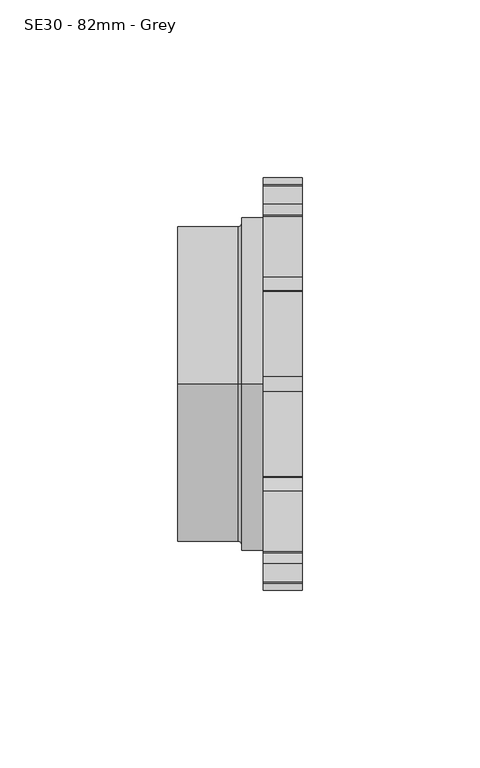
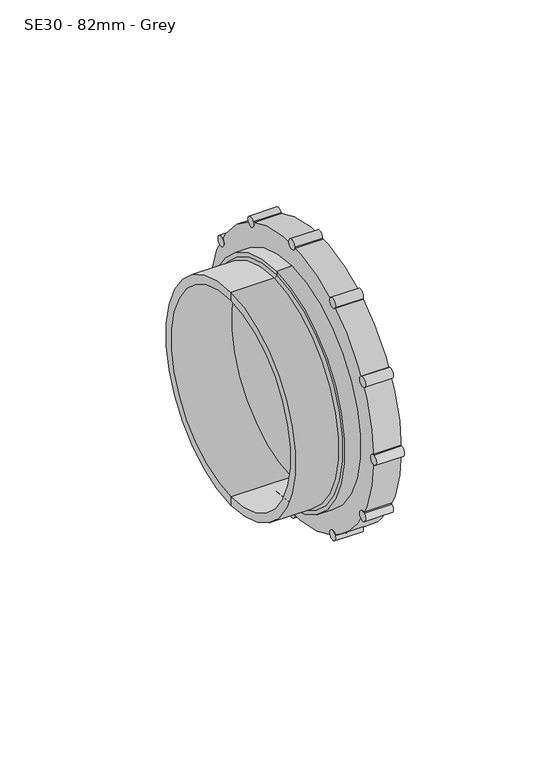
"""IFC4 building model written with IfcOpenShell, lengths in millimetres: pipe fitting geometry, MarleyPlumbingAndDrainage_PipeFitting_AccessCaps : SE30 - 82mm - Grey."""

from ifc_helpers import new_model, si_unit, point, frame, frame_2d, origin, place, context, project, spatial, polyline, circle_curve, ellipse_curve, trimmed, segment, composite_curve, outline, extrude, source, transform, mapped, element, save
from ifc_brep_helpers import plane_surface, cylinder_surface, revolved_surface, advanced_brep


def se30_82mm_grey_369aa931(model_context):
    return source(origin(), model_context, "Body", "SolidModel", [
        extrude(outline(composite_curve([segment(trimmed(circle_curve(frame_2d((48.4974226, 28.0)), 2.0), [point((47.4974226, 29.7320508))], [point((49.4974226, 26.2679492))], False, "CARTESIAN"), True, "CONTINUOUS"), segment(trimmed(circle_curve(frame_2d((48.4974226, 28.0)), 2.0), [point((49.4974226, 26.2679492))], [point((47.4974226, 29.7320508))], False, "CARTESIAN"), True, "CONTINUOUS")], self_intersect=False)), frame((-330.6858175, 0.0, 0.0), z_axis=(1.0, 0.0, 0.0), x_axis=(0.0, 1.0, 0.0)), (0.0, 0.0, 1.0), 11.0),
        extrude(outline(composite_curve([segment(trimmed(circle_curve(frame_2d((56.0, 0.0)), 2.0), [point((56.0, 2.0))], [point((56.0, -2.0))], False, "CARTESIAN"), True, "CONTINUOUS"), segment(trimmed(circle_curve(frame_2d((56.0, 0.0)), 2.0), [point((56.0, -2.0))], [point((56.0, 2.0))], False, "CARTESIAN"), True, "CONTINUOUS")], self_intersect=False)), frame((-330.6858175, 0.0, 0.0), z_axis=(1.0, 0.0, 0.0), x_axis=(0.0, 1.0, 0.0)), (0.0, 0.0, 1.0), 11.0),
        extrude(outline(composite_curve([segment(trimmed(circle_curve(frame_2d((48.4974226, -28.0)), 2.0), [point((49.4974226, -26.2679492))], [point((47.4974226, -29.7320508))], False, "CARTESIAN"), True, "CONTINUOUS"), segment(trimmed(circle_curve(frame_2d((48.4974226, -28.0)), 2.0), [point((47.4974226, -29.7320508))], [point((49.4974226, -26.2679492))], False, "CARTESIAN"), True, "CONTINUOUS")], self_intersect=False)), frame((-330.6858175, 0.0, 0.0), z_axis=(1.0, 0.0, 0.0), x_axis=(0.0, 1.0, 0.0)), (0.0, 0.0, 1.0), 11.0),
        extrude(outline(composite_curve([segment(trimmed(circle_curve(frame_2d((28.0, -48.4974226)), 2.0), [point((29.7320508, -47.4974226))], [point((26.2679492, -49.4974226))], False, "CARTESIAN"), True, "CONTINUOUS"), segment(trimmed(circle_curve(frame_2d((28.0, -48.4974226)), 2.0), [point((26.2679492, -49.4974226))], [point((29.7320508, -47.4974226))], False, "CARTESIAN"), True, "CONTINUOUS")], self_intersect=False)), frame((-330.6858175, 0.0, 0.0), z_axis=(1.0, 0.0, 0.0), x_axis=(0.0, 1.0, 0.0)), (0.0, 0.0, 1.0), 11.0),
        extrude(outline(composite_curve([segment(trimmed(circle_curve(frame_2d((0.0, -56.0)), 2.0), [point((2.0, -56.0))], [point((-2.0, -56.0))], False, "CARTESIAN"), True, "CONTINUOUS"), segment(trimmed(circle_curve(frame_2d((0.0, -56.0)), 2.0), [point((-2.0, -56.0))], [point((2.0, -56.0))], False, "CARTESIAN"), True, "CONTINUOUS")], self_intersect=False)), frame((-330.6858175, 0.0, 0.0), z_axis=(1.0, 0.0, 0.0), x_axis=(0.0, 1.0, 0.0)), (0.0, 0.0, 1.0), 11.0),
        extrude(outline(composite_curve([segment(trimmed(circle_curve(frame_2d((-28.0, -48.4974226)), 2.0), [point((-26.2679492, -49.4974226))], [point((-29.7320508, -47.4974226))], False, "CARTESIAN"), True, "CONTINUOUS"), segment(trimmed(circle_curve(frame_2d((-28.0, -48.4974226)), 2.0), [point((-29.7320508, -47.4974226))], [point((-26.2679492, -49.4974226))], False, "CARTESIAN"), True, "CONTINUOUS")], self_intersect=False)), frame((-330.6858175, 0.0, 0.0), z_axis=(1.0, 0.0, 0.0), x_axis=(0.0, 1.0, 0.0)), (0.0, 0.0, 1.0), 11.0),
        extrude(outline(composite_curve([segment(trimmed(circle_curve(frame_2d((-48.4974226, -28.0)), 2.0), [point((-47.4974226, -29.7320508))], [point((-49.4974226, -26.2679492))], False, "CARTESIAN"), True, "CONTINUOUS"), segment(trimmed(circle_curve(frame_2d((-48.4974226, -28.0)), 2.0), [point((-49.4974226, -26.2679492))], [point((-47.4974226, -29.7320508))], False, "CARTESIAN"), True, "CONTINUOUS")], self_intersect=False)), frame((-330.6858175, 0.0, 0.0), z_axis=(1.0, 0.0, 0.0), x_axis=(0.0, 1.0, 0.0)), (0.0, 0.0, 1.0), 11.0),
        extrude(outline(composite_curve([segment(trimmed(circle_curve(frame_2d((-56.0, 0.0)), 2.0), [point((-56.0, -2.0))], [point((-56.0, 2.0))], False, "CARTESIAN"), True, "CONTINUOUS"), segment(trimmed(circle_curve(frame_2d((-56.0, 0.0)), 2.0), [point((-56.0, 2.0))], [point((-56.0, -2.0))], False, "CARTESIAN"), True, "CONTINUOUS")], self_intersect=False)), frame((-330.6858175, 0.0, 0.0), z_axis=(1.0, 0.0, 0.0), x_axis=(0.0, 1.0, 0.0)), (0.0, 0.0, 1.0), 11.0),
        extrude(outline(composite_curve([segment(trimmed(circle_curve(frame_2d((-48.4974226, 28.0)), 2.0), [point((-49.4974226, 26.2679492))], [point((-47.4974226, 29.7320508))], False, "CARTESIAN"), True, "CONTINUOUS"), segment(trimmed(circle_curve(frame_2d((-48.4974226, 28.0)), 2.0), [point((-47.4974226, 29.7320508))], [point((-49.4974226, 26.2679492))], False, "CARTESIAN"), True, "CONTINUOUS")], self_intersect=False)), frame((-330.6858175, 0.0, 0.0), z_axis=(1.0, 0.0, 0.0), x_axis=(0.0, 1.0, 0.0)), (0.0, 0.0, 1.0), 11.0),
        extrude(outline(composite_curve([segment(trimmed(circle_curve(frame_2d((-28.0, 48.4974226)), 2.0), [point((-29.7320508, 47.4974226))], [point((-26.2679492, 49.4974226))], False, "CARTESIAN"), True, "CONTINUOUS"), segment(trimmed(circle_curve(frame_2d((-28.0, 48.4974226)), 2.0), [point((-26.2679492, 49.4974226))], [point((-29.7320508, 47.4974226))], False, "CARTESIAN"), True, "CONTINUOUS")], self_intersect=False)), frame((-330.6858175, 0.0, 0.0), z_axis=(1.0, 0.0, 0.0), x_axis=(0.0, 1.0, 0.0)), (0.0, 0.0, 1.0), 11.0),
        extrude(outline(composite_curve([segment(trimmed(circle_curve(frame_2d((28.0, 48.4974226)), 2.0), [point((26.2679492, 49.4974226))], [point((29.7320508, 47.4974226))], False, "CARTESIAN"), True, "CONTINUOUS"), segment(trimmed(circle_curve(frame_2d((28.0, 48.4974226)), 2.0), [point((29.7320508, 47.4974226))], [point((26.2679492, 49.4974226))], False, "CARTESIAN"), True, "CONTINUOUS")], self_intersect=False)), frame((-330.6858175, 0.0, 0.0), z_axis=(1.0, 0.0, 0.0), x_axis=(0.0, 1.0, 0.0)), (0.0, 0.0, 1.0), 11.0),
        extrude(outline(composite_curve([segment(trimmed(circle_curve(frame_2d((0.0, 56.0)), 2.0), [point((-2.0, 56.0))], [point((2.0, 56.0))], False, "CARTESIAN"), True, "CONTINUOUS"), segment(trimmed(circle_curve(frame_2d((0.0, 56.0)), 2.0), [point((2.0, 56.0))], [point((-2.0, 56.0))], False, "CARTESIAN"), True, "CONTINUOUS")], self_intersect=False)), frame((-330.6858175, 0.0, 0.0), z_axis=(1.0, 0.0, 0.0), x_axis=(0.0, 1.0, 0.0)), (0.0, 0.0, 1.0), 11.0),
        advanced_brep(
        [(-319.6858175, -56.0, 0.0), (-319.6858175, 56.0, 0.0), (-319.6858175, -20.0908802, -48.5036755), (-319.6858175, -18.7514882, -45.2700971), (-319.6858175, 18.7514882, -45.2700971), (-319.6858175, 20.0908802, -48.5036755), (-319.6858175, 48.5036755, -20.0908802), (-319.6858175, 45.2700971, -18.7514882), (-319.6858175, 45.2700971, 18.7514882), (-319.6858175, 48.5036755, 20.0908802), (-319.6858175, -45.2700971, 18.7514882), (-319.6858175, -45.2700971, -18.7514882), (-319.6858175, -48.5036755, -20.0908802), (-319.6858175, -48.5036755, 20.0908802), (-319.6858175, -18.7514882, 45.2700971), (-319.6858175, -20.0908802, 48.5036755), (-319.6858175, 20.0908802, 48.5036755), (-319.6858175, 18.7514882, 45.2700971), (-330.6858175, -56.0, 0.0), (-330.6858175, 56.0, 0.0), (-330.6858175, 0.0, -47.0), (-330.6858175, 0.0, 47.0), (-330.6858175, 0.0, 41.0), (-330.6858175, 0.0, -41.0), (-326.3925353, -18.7514882, -45.2700971), (-326.3925353, -20.0908802, -48.5036755), (-326.3925353, 20.0908802, -48.5036755), (-326.3925353, 18.7514882, -45.2700971), (-326.3925353, 45.2700971, -18.7514882), (-326.3925353, 48.5036755, -20.0908802), (-326.3925353, 48.5036755, 20.0908802), (-326.3925353, 45.2700971, 18.7514882), (-326.3925353, -45.2700971, -18.7514882), (-326.3925353, -45.2700971, 18.7514882), (-326.3925353, -48.5036755, 20.0908802), (-326.3925353, -48.5036755, -20.0908802), (-326.3925353, -20.0908802, 48.5036755), (-326.3925353, -18.7514882, 45.2700971), (-326.3925353, 18.7514882, 45.2700971), (-326.3925353, 20.0908802, 48.5036755), (-336.6858175, 0.0, -47.0), (-336.6858175, 0.0, 47.0), (-336.6858175, 0.0, -45.5), (-336.6858175, 0.0, 45.5), (-337.6858175, 0.0, -44.5), (-337.6858175, 0.0, 44.5), (-354.6858175, 0.0, -44.5), (-354.6858175, 0.0, 44.5), (-354.6858175, 0.0, -41.0), (-354.6858175, 0.0, 41.0)],
        [
            (0, 1, circle_curve(frame((-319.6858175, 0.0, 0.0), z_axis=(1.0, 0.0, 0.0), x_axis=(0.0, 1.0, 0.0)), 56.0)),
            (1, 0, circle_curve(frame((-319.6858175, 0.0, 0.0), z_axis=(1.0, 0.0, 0.0), x_axis=(0.0, 1.0, 0.0)), 56.0)),
            (2, 3),
            (3, 4, circle_curve(frame((-319.6858175, 0.0, 0.0), z_axis=(1.0, 0.0, 0.0), x_axis=(0.0, 1.0, 0.0)), 49.0)),
            (4, 5),
            (5, 2, circle_curve(frame((-319.6858175, 0.0, 0.0), z_axis=(-1.0, 0.0, 0.0), x_axis=(0.0, 1.0, 0.0)), 52.5)),
            (6, 7),
            (7, 8, circle_curve(frame((-319.6858175, 0.0, 0.0), z_axis=(1.0, 0.0, 0.0), x_axis=(0.0, 1.0, 0.0)), 49.0)),
            (8, 9),
            (9, 6, circle_curve(frame((-319.6858175, 0.0, 0.0), z_axis=(-1.0, 0.0, 0.0), x_axis=(0.0, 1.0, 0.0)), 52.5)),
            (10, 11, circle_curve(frame((-319.6858175, 0.0, 0.0), z_axis=(1.0, 0.0, 0.0), x_axis=(0.0, 1.0, 0.0)), 49.0)),
            (11, 12),
            (12, 13, circle_curve(frame((-319.6858175, 0.0, 0.0), z_axis=(-1.0, 0.0, 0.0), x_axis=(0.0, 1.0, 0.0)), 52.5)),
            (13, 10),
            (14, 15),
            (15, 16, circle_curve(frame((-319.6858175, 0.0, 0.0), z_axis=(-1.0, 0.0, 0.0), x_axis=(0.0, 1.0, 0.0)), 52.5)),
            (16, 17),
            (17, 14, circle_curve(frame((-319.6858175, 0.0, 0.0), z_axis=(1.0, 0.0, 0.0), x_axis=(0.0, 1.0, 0.0)), 49.0)),
            (18, 19, circle_curve(frame((-330.6858175, 0.0, 0.0), z_axis=(-1.0, 0.0, 0.0), x_axis=(0.0, 1.0, 0.0)), 56.0)),
            (19, 18, circle_curve(frame((-330.6858175, 0.0, 0.0), z_axis=(-1.0, 0.0, 0.0), x_axis=(0.0, 1.0, 0.0)), 56.0)),
            (20, 21, circle_curve(frame((-330.6858175, 0.0, 0.0), z_axis=(1.0, 0.0, 0.0), x_axis=(0.0, 0.0, 1.0)), 47.0)),
            (21, 20, circle_curve(frame((-330.6858175, 0.0, 0.0), z_axis=(1.0, 0.0, 0.0), x_axis=(0.0, 0.0, 1.0)), 47.0)),
            (22, 23, circle_curve(frame((-330.6858175, 0.0, 0.0), z_axis=(-1.0, 0.0, 0.0), x_axis=(0.0, 0.0, 1.0)), 41.0)),
            (23, 22, circle_curve(frame((-330.6858175, 0.0, 0.0), z_axis=(-1.0, 0.0, 0.0), x_axis=(0.0, 0.0, 1.0)), 41.0)),
            (0, 18),
            (19, 1),
            (24, 25),
            (25, 26, circle_curve(frame((-326.3925353, 0.0, 0.0), z_axis=(1.0, 0.0, 0.0), x_axis=(0.0, 1.0, 0.0)), 52.5)),
            (26, 27),
            (27, 24, circle_curve(frame((-326.3925353, 0.0, 0.0), z_axis=(-1.0, 0.0, 0.0), x_axis=(0.0, 1.0, 0.0)), 49.0)),
            (28, 29),
            (29, 30, circle_curve(frame((-326.3925353, 0.0, 0.0), z_axis=(1.0, 0.0, 0.0), x_axis=(0.0, 1.0, 0.0)), 52.5)),
            (30, 31),
            (31, 28, circle_curve(frame((-326.3925353, 0.0, 0.0), z_axis=(-1.0, 0.0, 0.0), x_axis=(0.0, 1.0, 0.0)), 49.0)),
            (32, 33, circle_curve(frame((-326.3925353, 0.0, 0.0), z_axis=(-1.0, 0.0, 0.0), x_axis=(0.0, 1.0, 0.0)), 49.0)),
            (33, 34),
            (34, 35, circle_curve(frame((-326.3925353, 0.0, 0.0), z_axis=(1.0, 0.0, 0.0), x_axis=(0.0, 1.0, 0.0)), 52.5)),
            (35, 32),
            (36, 37),
            (37, 38, circle_curve(frame((-326.3925353, 0.0, 0.0), z_axis=(-1.0, 0.0, 0.0), x_axis=(0.0, 1.0, 0.0)), 49.0)),
            (38, 39),
            (39, 36, circle_curve(frame((-326.3925353, 0.0, 0.0), z_axis=(1.0, 0.0, 0.0), x_axis=(0.0, 1.0, 0.0)), 52.5)),
            (24, 3),
            (2, 25),
            (5, 26),
            (4, 27),
            (28, 7),
            (6, 29),
            (9, 30),
            (8, 31),
            (32, 11),
            (10, 33),
            (13, 34),
            (12, 35),
            (36, 15),
            (14, 37),
            (17, 38),
            (16, 39),
            (40, 41, circle_curve(frame((-336.6858175, 0.0, 0.0), z_axis=(1.0, 0.0, 0.0), x_axis=(0.0, 0.0, 1.0)), 47.0)),
            (41, 21),
            (20, 40),
            (41, 40, circle_curve(frame((-336.6858175, 0.0, 0.0), z_axis=(1.0, 0.0, 0.0), x_axis=(0.0, 0.0, 1.0)), 47.0)),
            (40, 42),
            (42, 43, circle_curve(frame((-336.6858175, 0.0, 0.0), z_axis=(1.0, 0.0, 0.0), x_axis=(0.0, 0.0, 1.0)), 45.5)),
            (43, 41),
            (43, 42, circle_curve(frame((-336.6858175, 0.0, 0.0), z_axis=(1.0, 0.0, 0.0), x_axis=(0.0, 0.0, 1.0)), 45.5)),
            (42, 44, circle_curve(frame((-337.6858175, 0.0, -45.5), z_axis=(0.0, -1.0, 0.0), x_axis=(1.0, 0.0, 0.0)), 1.0)),
            (44, 45, circle_curve(frame((-337.6858175, 0.0, 0.0), z_axis=(1.0, 0.0, 0.0), x_axis=(0.0, 0.0, 1.0)), 44.5)),
            (45, 43, circle_curve(frame((-337.6858175, 0.0, 45.5), z_axis=(0.0, -1.0, 0.0), x_axis=(1.0, 0.0, 0.0)), 1.0)),
            (45, 44, circle_curve(frame((-337.6858175, 0.0, 0.0), z_axis=(1.0, 0.0, 0.0), x_axis=(0.0, 0.0, 1.0)), 44.5)),
            (44, 46),
            (46, 47, circle_curve(frame((-354.6858175, 0.0, 0.0), z_axis=(1.0, 0.0, 0.0), x_axis=(0.0, 0.0, 1.0)), 44.5)),
            (47, 45),
            (47, 46, circle_curve(frame((-354.6858175, 0.0, 0.0), z_axis=(1.0, 0.0, 0.0), x_axis=(0.0, 0.0, 1.0)), 44.5)),
            (46, 48),
            (48, 49, circle_curve(frame((-354.6858175, 0.0, 0.0), z_axis=(1.0, 0.0, 0.0), x_axis=(0.0, 0.0, 1.0)), 41.0)),
            (49, 47),
            (49, 48, circle_curve(frame((-354.6858175, 0.0, 0.0), z_axis=(1.0, 0.0, 0.0), x_axis=(0.0, 0.0, 1.0)), 41.0)),
            (48, 23),
            (22, 49),
        ],
        [
            plane_surface(frame((-319.6858175, 56.0, 0.0), z_axis=(1.0, 0.0, 0.0), x_axis=(0.0, 0.0, 1.0))),
            plane_surface(frame((-330.6858175, 56.0, 0.0), z_axis=(-1.0, 0.0, 0.0), x_axis=(0.0, 0.0, -1.0))),
            cylinder_surface(frame((-330.6858175, 0.0, 0.0), z_axis=(1.0, 0.0, 0.0), x_axis=(0.0, 1.0, 0.0)), 56.0),
            plane_surface(frame((-326.3925353, -20.0908802, -48.5036755), z_axis=(1.0, 0.0, 0.0), x_axis=(0.0, 0.3826834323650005, 0.9238795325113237))),
            plane_surface(frame((-319.6858175, -18.7514882, -45.2700971), z_axis=(0.0, 0.9238795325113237, -0.3826834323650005), x_axis=(-1.0, 0.0, 0.0))),
            revolved_surface(polyline([(-319.6858175, 52.5, 0.0), (-326.3925353, 52.5, 0.0)]), (-326.3925353, 0.0, 0.0), (1.0, 0.0, 0.0)),
            plane_surface(frame((-319.6858175, 20.0908802, -48.5036755), z_axis=(0.0, -0.9238795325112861, -0.3826834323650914), x_axis=(-1.0, 0.0, 0.0))),
            cylinder_surface(frame((-326.3925353, 0.0, 0.0), z_axis=(-1.0, 0.0, 0.0), x_axis=(0.0, 1.0, 0.0)), 49.0),
            plane_surface(frame((-319.6858175, 45.2700971, -18.7514882), z_axis=(0.0, 0.3826834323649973, 0.9238795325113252), x_axis=(-1.0, 0.0, 0.0))),
            revolved_surface(polyline([(-319.6858175, 52.5, 0.0), (-326.3925353, 52.5, 0.0)]), (-330.6858175, 0.0, 0.0), (1.0, 0.0, 0.0)),
            plane_surface(frame((-319.6858175, 48.5036755, 20.0908802), z_axis=(0.0, 0.3826834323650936, -0.9238795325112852), x_axis=(-1.0, 0.0, 0.0))),
            cylinder_surface(frame((-330.6858175, 0.0, 0.0), z_axis=(-1.0, 0.0, 0.0), x_axis=(0.0, 1.0, 0.0)), 49.0),
            plane_surface(frame((-319.6858175, -45.2700971, 18.7514882), z_axis=(0.0, -0.38268343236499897, -0.9238795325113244), x_axis=(-1.0, 0.0, 0.0))),
            plane_surface(frame((-319.6858175, -48.5036755, -20.0908802), z_axis=(0.0, -0.3826834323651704, 0.9238795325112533), x_axis=(-1.0, 0.0, 0.0))),
            plane_surface(frame((-319.6858175, -20.0908802, 48.5036755), z_axis=(0.0, 0.9238795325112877, 0.38268343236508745), x_axis=(-1.0, 0.0, 0.0))),
            plane_surface(frame((-319.6858175, 18.7514882, 45.2700971), z_axis=(0.0, -0.9238795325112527, 0.38268343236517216), x_axis=(-1.0, 0.0, 0.0))),
            cylinder_surface(frame((-1513.0299635, 0.0, 0.0), z_axis=(-1.0, 0.0, 0.0), x_axis=(0.0, 0.0, 1.0)), 47.0),
            plane_surface(frame((-336.6858175, 0.0, 0.0), z_axis=(-1.0, 0.0, 0.0), x_axis=(0.0, 0.0, 1.0))),
            revolved_surface(trimmed(ellipse_curve(frame((-337.6858175, 0.0, 45.5), z_axis=(0.0, 1.0, 0.0), x_axis=(1.0, 0.0, 0.0)), 1.0, 1.0), [point((-336.6858175, 0.0, 45.5))], [point((-337.6858175, 0.0, 44.5))], True, "CARTESIAN"), (-1513.0299635, 0.0, 0.0), (-1.0, 0.0, 0.0)),
            cylinder_surface(frame((-1513.0299635, 0.0, 0.0), z_axis=(-1.0, 0.0, 0.0), x_axis=(0.0, 0.0, 1.0)), 44.5),
            plane_surface(frame((-354.6858175, 0.0, 0.0), z_axis=(-1.0, 0.0, 0.0), x_axis=(0.0, 0.0, 1.0))),
            revolved_surface(polyline([(-354.6858175, 0.0, 41.0), (-330.6858175, 0.0, 41.0)]), (-1513.0299635, 0.0, 0.0), (-1.0, 0.0, 0.0)),
        ],
        [
            (0, [[1, 2], [3, 4, 5, 6], [7, 8, 9, 10], [11, 12, 13, 14], [15, 16, 17, 18]]),
            (1, [[19, 20], [21, 22]]),
            (1, [[23, 24]]),
            (2, [[-1, 25, -20, 26]]),
            (2, [[-2, -26, -19, -25]]),
            (3, [[27, 28, 29, 30]]),
            (3, [[31, 32, 33, 34]]),
            (3, [[35, 36, 37, 38]]),
            (3, [[39, 40, 41, 42]]),
            (4, [[-27, 43, -3, 44]]),
            (5, [[-28, -44, -6, 45]]),
            (6, [[-29, -45, -5, 46]]),
            (7, [[-30, -46, -4, -43]]),
            (8, [[-31, 47, -7, 48]]),
            (9, [[-32, -48, -10, 49]]),
            (10, [[-33, -49, -9, 50]]),
            (11, [[-34, -50, -8, -47]]),
            (11, [[-35, 51, -11, 52]]),
            (12, [[-36, -52, -14, 53]]),
            (9, [[-37, -53, -13, 54]]),
            (13, [[-38, -54, -12, -51]]),
            (14, [[-39, 55, -15, 56]]),
            (11, [[-40, -56, -18, 57]]),
            (15, [[-41, -57, -17, 58]]),
            (9, [[-42, -58, -16, -55]]),
            (16, [[59, 60, -21, 61]]),
            (16, [[-60, 62, -61, -22]]),
            (17, [[-59, 63, 64, 65]]),
            (17, [[-62, -65, 66, -63]]),
            (18, [[-64, 67, 68, 69]]),
            (18, [[-66, -69, 70, -67]]),
            (19, [[-68, 71, 72, 73]]),
            (19, [[-70, -73, 74, -71]]),
            (20, [[-72, 75, 76, 77]]),
            (20, [[-74, -77, 78, -75]]),
            (21, [[-76, 79, -23, 80]]),
            (21, [[-78, -80, -24, -79]]),
        ],
    ),
    ])


if __name__ == "__main__":
    model = new_model("IFC4")
    model_context = context("Model", 3, world=origin())
    ifc_project = project(units=[si_unit("LENGTHUNIT", "METRE", prefix="MILLI")], contexts=[model_context])
    site = spatial("IfcSite", under=ifc_project)
    building = spatial("IfcBuilding", under=site)
    placement = place(None, origin())
    se30_82mm_grey_shape = se30_82mm_grey_369aa931(model_context)
    element("IfcPipeFitting", 1, ObjectType="MarleyPlumbingAndDrainage_PipeFitting_AccessCaps : SE30 - 82mm - Grey", at=placement, inside=building, context=model_context, shape_type="MappedRepresentation", body=[
        mapped(se30_82mm_grey_shape, transform((0.0, 0.0, 0.0), x_axis=(1.0, 0.0, 0.0), y_axis=(0.0, 1.0, 0.0), z_axis=(0.0, 0.0, 1.0))),
    ])
    save(model, "model.ifc")
